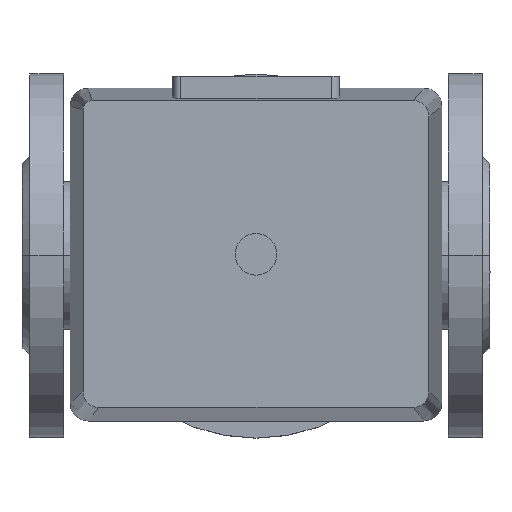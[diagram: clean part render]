
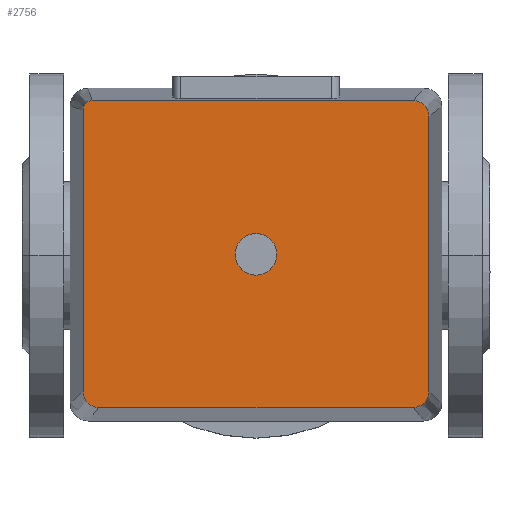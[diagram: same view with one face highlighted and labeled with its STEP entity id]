
A CAD part, top view. The second image highlights one B-rep face of the part: STEP entity #2756.
In plain terms, the highlighted planar face has unit normal (0, 0, 1).
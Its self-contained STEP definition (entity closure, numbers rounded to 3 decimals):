
#265=LINE('',#4612,#455);
#266=LINE('',#4616,#456);
#267=LINE('',#4620,#457);
#268=LINE('',#4624,#458);
#455=VECTOR('',#3734,304.8);
#456=VECTOR('',#3737,304.8);
#457=VECTOR('',#3740,304.8);
#458=VECTOR('',#3743,304.8);
#723=FACE_OUTER_BOUND('',#906,.T.);
#906=EDGE_LOOP('',(#2187,#2188,#2189,#2190,#2191,#2192,#2193,#2194));
#1075=CIRCLE('',#3048,6.);
#1076=CIRCLE('',#3049,6.);
#1077=CIRCLE('',#3050,3.5);
#1078=CIRCLE('',#3051,6.);
#1291=VERTEX_POINT('',#4610);
#1292=VERTEX_POINT('',#4611);
#1293=VERTEX_POINT('',#4613);
#1294=VERTEX_POINT('',#4615);
#1295=VERTEX_POINT('',#4617);
#1296=VERTEX_POINT('',#4619);
#1297=VERTEX_POINT('',#4621);
#1298=VERTEX_POINT('',#4623);
#1605=EDGE_CURVE('',#1291,#1292,#265,.T.);
#1606=EDGE_CURVE('',#1292,#1293,#1075,.T.);
#1607=EDGE_CURVE('',#1293,#1294,#266,.T.);
#1608=EDGE_CURVE('',#1294,#1295,#1076,.T.);
#1609=EDGE_CURVE('',#1295,#1296,#267,.T.);
#1610=EDGE_CURVE('',#1296,#1297,#1077,.T.);
#1611=EDGE_CURVE('',#1297,#1298,#268,.T.);
#1612=EDGE_CURVE('',#1298,#1291,#1078,.T.);
#2187=ORIENTED_EDGE('',*,*,#1605,.T.);
#2188=ORIENTED_EDGE('',*,*,#1606,.T.);
#2189=ORIENTED_EDGE('',*,*,#1607,.T.);
#2190=ORIENTED_EDGE('',*,*,#1608,.T.);
#2191=ORIENTED_EDGE('',*,*,#1609,.T.);
#2192=ORIENTED_EDGE('',*,*,#1610,.T.);
#2193=ORIENTED_EDGE('',*,*,#1611,.T.);
#2194=ORIENTED_EDGE('',*,*,#1612,.T.);
#2498=PLANE('',#3047);
#2756=ADVANCED_FACE('',(#723),#2498,.T.);
#3047=AXIS2_PLACEMENT_3D('',#4609,#3732,#3733);
#3048=AXIS2_PLACEMENT_3D('',#4614,#3735,#3736);
#3049=AXIS2_PLACEMENT_3D('',#4618,#3738,#3739);
#3050=AXIS2_PLACEMENT_3D('',#4622,#3741,#3742);
#3051=AXIS2_PLACEMENT_3D('',#4625,#3744,#3745);
#3732=DIRECTION('center_axis',(0.,0.,1.));
#3733=DIRECTION('ref_axis',(0.,-1.,0.));
#3734=DIRECTION('',(0.,-1.,0.));
#3735=DIRECTION('center_axis',(0.,0.,1.));
#3736=DIRECTION('ref_axis',(1.,0.,0.));
#3737=DIRECTION('',(1.,0.,0.));
#3738=DIRECTION('center_axis',(0.,0.,1.));
#3739=DIRECTION('ref_axis',(1.,0.,0.));
#3740=DIRECTION('',(0.,1.,0.));
#3741=DIRECTION('center_axis',(0.,0.,1.));
#3742=DIRECTION('ref_axis',(1.,0.,0.));
#3743=DIRECTION('',(-1.,0.,0.));
#3744=DIRECTION('center_axis',(0.,0.,1.));
#3745=DIRECTION('ref_axis',(1.,0.,0.));
#4609=CARTESIAN_POINT('Origin',(0.313,0.313,294.));
#4610=CARTESIAN_POINT('',(-59.,60.5,294.));
#4611=CARTESIAN_POINT('',(-59.,-60.5,294.));
#4612=CARTESIAN_POINT('',(-59.,-60.5,294.));
#4613=CARTESIAN_POINT('',(-53.,-66.5,294.));
#4614=CARTESIAN_POINT('Origin',(-53.,-60.5,294.));
#4615=CARTESIAN_POINT('',(53.,-66.5,294.));
#4616=CARTESIAN_POINT('',(53.,-66.5,294.));
#4617=CARTESIAN_POINT('',(59.,-60.5,294.));
#4618=CARTESIAN_POINT('Origin',(53.,-60.5,294.));
#4619=CARTESIAN_POINT('',(59.,63.,294.));
#4620=CARTESIAN_POINT('',(59.,63.,294.));
#4621=CARTESIAN_POINT('',(55.5,66.5,294.));
#4622=CARTESIAN_POINT('Origin',(55.5,63.,294.));
#4623=CARTESIAN_POINT('',(-53.,66.5,294.));
#4624=CARTESIAN_POINT('',(-53.,66.5,294.));
#4625=CARTESIAN_POINT('Origin',(-53.,60.5,294.));
